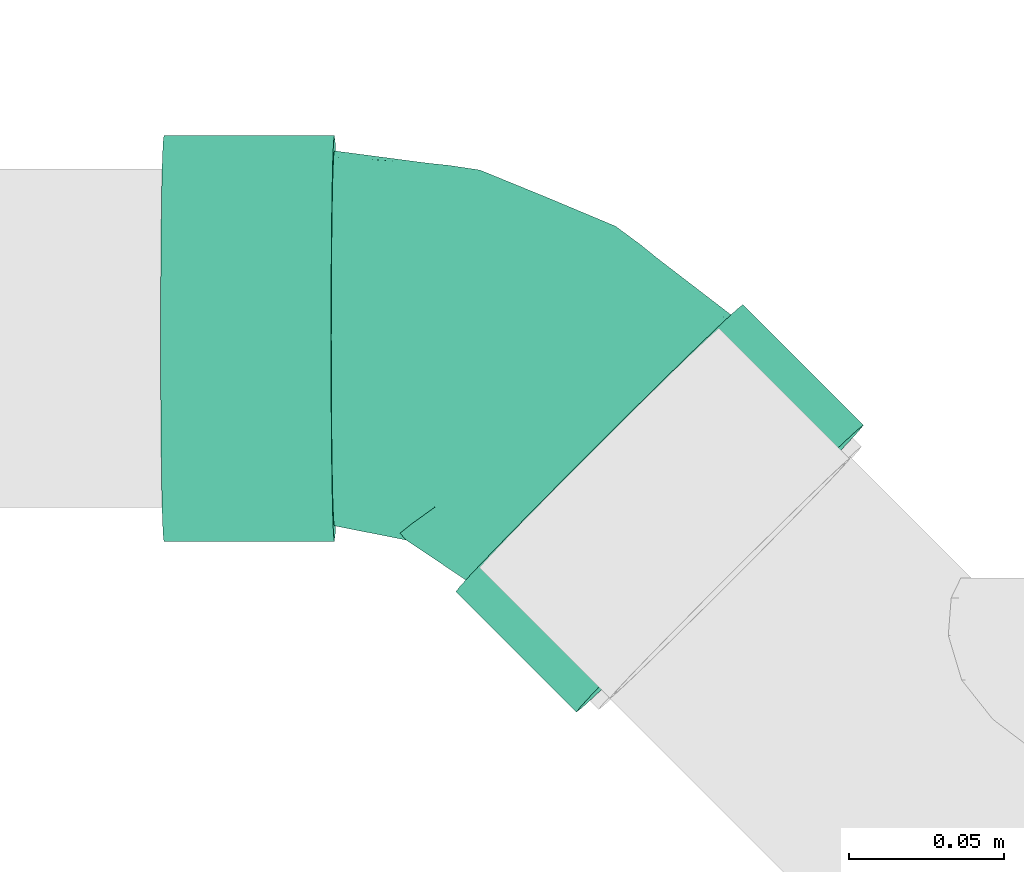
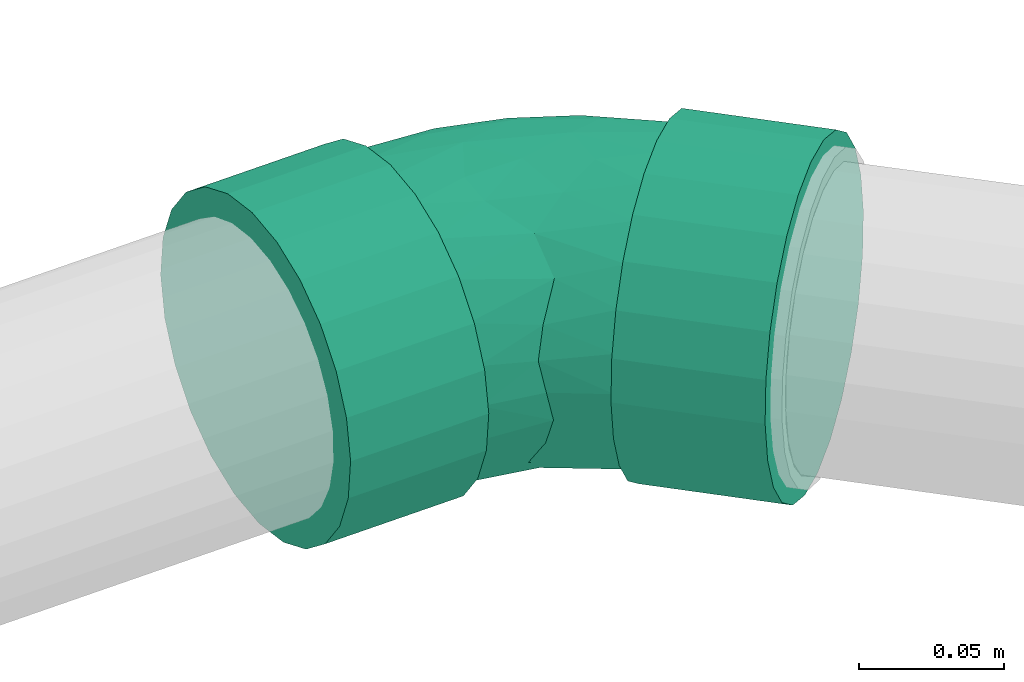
# One storey, part 62 of 83: 1 flow fitting.
"""IFC2X3 building model written with IfcOpenShell, lengths in millimetres."""

from ifc_helpers import new_model, entity, si_unit, converted_unit, derived_unit, direction, frame, origin_with_axes, place, context, subcontext, project, spatial, open_shell, surface_model, source, transform, mapped, type_object, element, save


model = new_model("IFC2X3")

# Units and contexts
model_context = context("Model", 3, precision=0.01, world=frame((0.0, 4.29681676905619e-09, 0.0)), true_north=direction((4.01073788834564e-13, 1.0)))
plan_context = context("Plan", 3, precision=0.01, world=frame((0.0, 4.29681676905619e-09, 0.0)), true_north=direction((4.01073788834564e-13, 1.0)))
body_context = subcontext(model_context, "Body", "Model", "MODEL_VIEW")
ifc_project = project(units=[converted_unit("PLANEANGLEUNIT", "DEGREE", entity("IfcPositiveLengthMeasure", 0.0174532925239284), si_unit("PLANEANGLEUNIT", "RADIAN"), dimensions=[0, 0, 0, 0, 0, 0, 0]), si_unit("AREAUNIT", "SQUARE_METRE"), si_unit("LENGTHUNIT", "METRE", prefix="MILLI"), si_unit("MASSUNIT", "GRAM", prefix="KILO"), si_unit("POWERUNIT", "WATT"), si_unit("PRESSUREUNIT", "PASCAL"), si_unit("FORCEUNIT", "NEWTON", prefix="KILO"), si_unit("ELECTRICVOLTAGEUNIT", "VOLT"), si_unit("ELECTRICCURRENTUNIT", "AMPERE"), si_unit("THERMODYNAMICTEMPERATUREUNIT", "DEGREE_CELSIUS"), si_unit("TIMEUNIT", "SECOND"), si_unit("VOLUMEUNIT", "CUBIC_METRE"), derived_unit("LINEARVELOCITYUNIT", [(si_unit("LENGTHUNIT", "METRE"), 1), (si_unit("TIMEUNIT", "SECOND"), -1)]), derived_unit("VOLUMETRICFLOWRATEUNIT", [(si_unit("VOLUMEUNIT", "CUBIC_METRE"), 1), (si_unit("TIMEUNIT", "SECOND"), -1)]), derived_unit("THERMALTRANSMITTANCEUNIT", [(si_unit("POWERUNIT", "WATT"), 1), (si_unit("THERMODYNAMICTEMPERATUREUNIT", "KELVIN"), -1), (si_unit("AREAUNIT", "SQUARE_METRE"), -1)]), derived_unit("SOUNDPRESSUREUNIT", [(si_unit("PRESSUREUNIT", "PASCAL"), 1)])], contexts=[model_context, plan_context])

# Site, building, storey
site_placement = place(None, frame((0.0, -4.29681676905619e-09, 0.0), z_axis=(0.0, 0.0, 1.0), x_axis=(1.0, 0.0, 0.0)))
site = spatial("IfcSite", under=ifc_project, at=site_placement, Name="ENGM", CompositionType="ELEMENT")
building_placement = place(site_placement, frame((0.0, 4.29681676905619e-09, 0.0), z_axis=(0.0, 0.0, 1.0), x_axis=(1.0, 0.0, 0.0)))
building = spatial("IfcBuilding", under=site, at=building_placement, Name="TI", CompositionType="ELEMENT")
storey_placement = place(building_placement, frame((0.0, 0.0, 204000.0), z_axis=(0.0, 0.0, 1.0), x_axis=(1.0, 0.0, 0.0)))
storey = spatial("IfcBuildingStorey", under=building, at=storey_placement, Name="Nivå D", CompositionType="ELEMENT", Elevation=204000.0)

# Flow fitting
pipe_fitting_type = type_object("IfcPipeFittingType", Name="magi_sewer_bend_001", PredefinedType="BEND")
shared_shape = source(origin_with_axes(), body_context, "Body", "SurfaceModel", [
    surface_model("IfcShellBasedSurfaceModel", [(-105.11169, -16.95265, -63.26814), (-105.11169, -32.75, -56.72466), (-105.11169, -46.3155, -46.3155), (-105.11169, -63.26814, -16.95265), (-105.11169, 56.72466, -32.75), (-105.11169, -56.72466, -32.75), (-105.11169, -65.5, 0.0), (-105.11169, 16.95265, -63.26814), (-105.11169, 0.0, -65.5), (-105.11169, 32.75, -56.72466), (-105.11169, 46.3155, -46.3155), (-105.11169, 63.26814, -16.95265), (-105.11169, -63.26814, 16.95265), (-105.11169, -56.72466, 32.75), (-105.11169, -46.3155, 46.3155), (-105.11169, 63.26814, 16.95265), (-105.11169, -16.95265, 63.26814), (-105.11169, 0.0, 65.5), (-105.11169, -32.75, 56.72466), (-105.11169, 46.3155, 46.3155), (-105.11169, 56.72466, 32.75), (-105.11169, 65.5, 0.0), (-105.11169, 16.95265, 63.26814), (-105.11169, 32.75, 56.72466), (-50.11169, -16.95265, 63.26814), (-50.11169, 16.95265, 63.26814), (-50.11169, 0.0, 65.5), (-50.11169, -46.3155, 46.3155), (-50.11169, -32.75, 56.72466), (-50.11169, -56.72466, 32.75), (-50.11169, -63.26814, 16.95265), (-50.11169, 46.3155, 46.3155), (-50.11169, 32.75, 56.72466), (-50.11169, 63.26814, 16.95265), (-50.11169, 56.72466, 32.75), (-50.11169, 63.26814, -16.95265), (-50.11169, 65.5, 0.0), (-50.11169, -63.26814, -16.95265), (-50.11169, 32.75, -56.72466), (-50.11169, -65.5, 0.0), (-50.11169, -16.95265, -63.26814), (-50.11169, -56.72466, -32.75), (-50.11169, -46.3155, -46.3155), (-50.11169, -32.75, -56.72466), (-50.11169, 0.0, -65.5), (-50.11169, 46.3155, -46.3155), (-50.11169, 56.72466, -32.75), (-50.11169, 16.95265, -63.26814), (62.34778, 86.30535, 63.26814), (41.58751, 107.07041, 46.3155), (51.17865, 97.47704, 56.72466), (28.02357, 120.63746, 0.0), (34.22796, 114.43164, -32.75), (29.60155, 119.05911, -16.95265), (51.17865, 97.47704, -56.72466), (74.33373, 74.31664, -65.5), (62.34778, 86.30535, -63.26814), (86.31969, 62.32793, 63.26814), (97.48882, 51.15623, 56.72466), (107.07996, 41.56287, 46.3155), (86.31969, 62.32793, -63.26814), (119.06592, 29.57416, 16.95265), (114.43952, 34.20163, 32.75), (120.6439, 27.99582, 0.0), (107.07996, 41.56287, -46.3155), (97.48882, 51.15623, -56.72466), (119.06592, 29.57416, -16.95265), (114.43952, 34.20163, -32.75), (68.18462, 2.67647, 46.3155), (80.17058, -9.31224, 16.95265), (75.54417, -4.68477, 32.75), (58.59347, 12.26983, 56.72466), (47.42434, 23.44153, 63.26814), (68.18462, 2.67647, -46.3155), (47.42434, 23.44153, -63.26814), (58.59347, 12.26983, -56.72466), (12.28331, 58.59065, -56.72466), (35.43839, 35.43024, -65.5), (23.45244, 47.41895, -63.26814), (-4.66739, 75.54525, -32.75), (-10.87178, 81.75106, 0.0), (-9.2938, 80.17271, -16.95265), (23.45244, 47.41895, 63.26814), (35.43839, 35.43024, 65.5), (12.28331, 58.59065, 56.72466), (74.33373, 74.31664, 65.5), (-9.2938, 80.17271, 16.95265), (81.74855, -10.89058, 0.0), (80.17058, -9.31224, -16.95265), (75.54417, -4.68477, -32.75), (-50.11169, 15.65855, -58.43851), (-50.11169, 0.0, -60.5), (-50.11169, 58.43851, -15.65855), (-50.11169, 30.25, -52.39454), (-50.11169, 52.39454, -30.25), (-50.11169, 42.77996, -42.77996), (-50.11169, -60.5, 0.0), (-50.11169, -30.25, -52.39454), (-50.11169, -42.77996, -42.77996), (-50.11169, -15.65855, -58.43851), (-50.11169, -58.43851, -15.65855), (-50.11169, -52.39454, -30.25), (-50.11169, -58.43851, 15.65855), (-50.11169, 58.43851, 15.65855), (-50.11169, 52.39454, 30.25), (-50.11169, 42.77996, 42.77996), (-50.11169, 30.25, 52.39454), (-50.11169, 15.65855, 58.43851), (-50.11169, -52.39454, 30.25), (-50.11169, -42.77996, 42.77996), (-50.11169, -30.25, 52.39454), (-50.11169, -15.65855, 58.43851), (-50.11169, 0.0, 60.5), (-50.11169, 60.5, 0.0), (46.50938, 24.3567, -58.43851), (65.68491, 5.17676, -42.77996), (56.82591, 14.0378, -52.39454), (72.48266, -1.62256, -30.25), (78.21343, -7.35464, 0.0), (76.75591, -5.89678, -15.65855), (-7.33665, 78.21512, 0.0), (-5.87912, 76.75726, 15.65855), (-1.60588, 72.48303, 30.25), (15.40779, -37.20376, 33.71575), (-13.37979, -34.19359, 46.68447), (-19.52869, -46.27099, 35.42531), (-20.20595, -56.56342, 0.0), (-3.14275, -54.31734, 0.0), (-12.90841, -55.73812, 10.33155), (72.48266, -1.62256, 30.25), (65.68491, 5.17676, 42.77996), (46.52523, -18.91501, 35.42531), (-23.96888, -22.18524, 55.29409), (6.21199, -14.9995, 54.53203), (24.36739, 46.50378, 58.43851), (1.79864, 36.36872, 56.46793), (10.93536, 28.63365, 59.61973), (-18.05072, -5.82526, 59.69855), (-5.7527, 13.8905, 60.28734), (-30.3089, 8.38332, 60.13281), (-17.18178, 41.48723, 49.39213), (-26.67255, 50.73823, 38.17936), (56.82591, 14.0378, 52.39454), (46.50938, 24.3567, 58.43851), (32.63604, 1.25747, 55.29409), (-23.23918, 25.17567, 56.55885), (23.34312, -39.60182, 23.84486), (-10.84361, -52.34235, 21.01062), (18.78215, -45.35149, 13.15148), (-24.91871, 60.16888, 24.85552), (76.75591, -5.89678, 15.65855), (48.53694, -30.29076, 10.33155), (54.28118, -25.71485, 0.0), (-24.23052, 64.82487, 12.7115), (35.43839, 35.43024, 60.5), (16.88386, 8.64276, 59.69855), (33.63776, -14.72145, 46.68447), (-26.96256, 65.10396, 0.0), (10.15363, -24.51702, 48.24728), (5.19187, 65.68372, 42.77996), (18.74175, -45.25396, 0.0), (40.62626, -36.19057, 0.0), (-18.05072, -5.82526, -59.69855), (-12.90841, -55.73812, -10.33155), (18.78215, -45.35149, -13.15148), (35.43839, 35.43024, -60.5), (16.88386, 8.64276, -59.69855), (-26.98558, 24.44784, -56.46793), (-27.97808, 12.5178, -59.61973), (-17.01071, 54.73965, -38.17936), (33.63777, -14.72145, -46.68447), (-24.91871, 60.16888, -24.85551), (44.67584, -29.34918, -21.01062), (-28.6973, 62.97497, -12.7115), (-10.84361, -52.34235, -21.01062), (5.19187, 65.68372, -42.77996), (-17.18178, 41.48723, -49.39213), (-19.52869, -46.27099, -35.42531), (-13.37979, -34.19359, -46.68447), (10.15363, -24.51702, -48.24728), (15.40779, -37.20376, -33.71575), (-23.96888, -22.18524, -55.29409), (32.63604, 1.25747, -55.29409), (-5.87912, 76.75726, -15.65855), (-1.60588, 72.48303, -30.25), (6.21199, -14.9995, -54.53203), (-1.36537, 34.23462, -56.55885), (48.53694, -30.29076, -10.33155), (15.50688, 27.35775, -60.13281), (24.36739, 46.50378, -58.43851), (11.49152, -44.51012, -23.84486), (46.52523, -18.91501, -35.42531), (-5.7527, 13.8905, -60.28734), (-4.66739, 75.54525, 32.75), (41.58751, 107.07039, -46.3155), (29.60156, 119.0591, 16.95265), (34.22796, 114.43164, 32.75), (14.05087, 56.82267, 52.39454), (44.67583, -29.34919, 21.01062), (14.05087, 56.82267, -52.39454), (2.69216, 68.184, -46.3155), (2.69216, 68.184, 46.3155)], [open_shell([[[0, 1, 2]], [[0, 2, 3]], [[0, 3, 4]], [[3, 2, 5]], [[4, 3, 6]], [[0, 7, 8]], [[0, 9, 7]], [[10, 9, 0]], [[0, 4, 10]], [[6, 11, 4]], [[6, 12, 11]], [[12, 13, 14]], [[11, 14, 15]], [[16, 17, 14]], [[16, 14, 18]], [[15, 14, 17]], [[15, 19, 20]], [[21, 11, 15]], [[19, 22, 23]], [[22, 19, 15]], [[17, 22, 15]], [[11, 12, 14]], [[24, 25, 26]], [[27, 24, 28]], [[27, 29, 30]], [[24, 27, 25]], [[30, 25, 27]], [[25, 31, 32]], [[31, 25, 33]], [[31, 33, 34]], [[25, 30, 33]], [[33, 35, 36]], [[33, 30, 35]], [[37, 38, 39]], [[40, 37, 41]], [[42, 43, 40]], [[42, 40, 41]], [[44, 37, 40]], [[39, 45, 46]], [[46, 35, 39]], [[38, 44, 47]], [[38, 45, 39]], [[38, 37, 44]], [[39, 35, 30]], [[35, 11, 36]], [[46, 4, 35]], [[47, 44, 7]], [[45, 10, 46]], [[35, 4, 11]], [[11, 21, 36]], [[9, 38, 7]], [[9, 10, 45]], [[38, 47, 7]], [[10, 4, 46]], [[45, 38, 9]], [[44, 8, 7]], [[0, 40, 43]], [[42, 1, 43]], [[5, 41, 37]], [[42, 41, 2]], [[3, 37, 39]], [[40, 0, 8]], [[43, 1, 0]], [[42, 2, 1]], [[41, 5, 2]], [[3, 5, 37]], [[39, 6, 3]], [[40, 8, 44]], [[30, 12, 39]], [[29, 13, 30]], [[28, 18, 27]], [[27, 14, 29]], [[30, 13, 12]], [[12, 6, 39]], [[17, 16, 24]], [[16, 18, 28]], [[14, 27, 18]], [[14, 13, 29]], [[24, 16, 28]], [[24, 26, 17]], [[22, 25, 32]], [[31, 23, 32]], [[20, 34, 33]], [[31, 34, 19]], [[15, 33, 36]], [[25, 22, 17]], [[32, 23, 22]], [[31, 19, 23]], [[34, 20, 19]], [[15, 20, 33]], [[36, 21, 15]], [[25, 17, 26]], [[48, 49, 50]], [[51, 52, 53]], [[54, 55, 56]], [[57, 58, 59]], [[60, 59, 61]], [[61, 59, 62]], [[60, 61, 63]], [[60, 64, 65]], [[55, 54, 60]], [[64, 66, 67]], [[66, 64, 60]], [[63, 66, 60]], [[68, 69, 70]], [[68, 71, 72]], [[73, 74, 75]], [[74, 76, 77]], [[78, 77, 76]], [[79, 80, 81]], [[82, 72, 83]], [[78, 56, 77]], [[76, 54, 78]], [[81, 80, 53]], [[78, 54, 56]], [[56, 55, 77]], [[52, 79, 53]], [[79, 81, 53]], [[80, 51, 53]], [[50, 84, 82]], [[48, 82, 83]], [[84, 50, 49]], [[48, 50, 82]], [[83, 85, 48]], [[86, 51, 80]], [[72, 57, 83]], [[71, 58, 72]], [[70, 62, 68]], [[68, 59, 71]], [[72, 58, 57]], [[57, 85, 83]], [[63, 61, 69]], [[61, 62, 70]], [[59, 68, 62]], [[59, 58, 71]], [[69, 61, 70]], [[69, 87, 63]], [[66, 88, 89]], [[73, 67, 89]], [[65, 75, 74]], [[73, 75, 64]], [[60, 74, 77]], [[88, 66, 63]], [[89, 67, 66]], [[73, 64, 67]], [[75, 65, 64]], [[60, 65, 74]], [[77, 55, 60]], [[88, 63, 87]], [[90, 91, 92]], [[93, 90, 92]], [[92, 94, 95]], [[93, 92, 95]], [[96, 92, 91]], [[97, 98, 99]], [[98, 91, 99]], [[100, 96, 101]], [[98, 101, 96]], [[98, 96, 91]], [[96, 102, 92]], [[103, 92, 102]], [[104, 103, 105]], [[106, 103, 102]], [[105, 103, 106]], [[107, 106, 102]], [[108, 109, 102]], [[110, 102, 109]], [[111, 112, 110]], [[102, 110, 112]], [[112, 107, 102]], [[113, 92, 103]], [[114, 115, 116]], [[117, 118, 119]], [[118, 117, 115]], [[120, 121, 122]], [[123, 124, 125]], [[126, 127, 128]], [[110, 109, 124]], [[129, 130, 131]], [[132, 124, 133]], [[125, 124, 109]], [[134, 135, 136]], [[111, 110, 132]], [[137, 138, 139]], [[112, 111, 137]], [[105, 140, 141]], [[142, 143, 144]], [[139, 107, 112]], [[106, 145, 140]], [[102, 126, 128]], [[146, 147, 148]], [[140, 105, 106]], [[109, 108, 125]], [[104, 141, 149]], [[103, 104, 149]], [[150, 151, 152]], [[153, 113, 103]], [[147, 128, 148]], [[106, 107, 145]], [[154, 136, 155]], [[130, 142, 156]], [[122, 121, 149]], [[155, 143, 154]], [[123, 125, 147]], [[130, 156, 131]], [[138, 136, 135]], [[156, 142, 144]], [[108, 147, 125]], [[123, 131, 156]], [[139, 145, 107]], [[123, 146, 131]], [[103, 149, 153]], [[108, 102, 147]], [[157, 153, 120]], [[124, 158, 133]], [[121, 153, 149]], [[133, 155, 137]], [[122, 149, 141]], [[133, 144, 155]], [[122, 141, 159]], [[138, 137, 155]], [[135, 140, 145]], [[132, 137, 111]], [[104, 105, 141]], [[158, 123, 156]], [[159, 141, 140]], [[138, 135, 145]], [[124, 132, 110]], [[137, 132, 133]], [[155, 144, 143]], [[156, 144, 133]], [[102, 96, 126]], [[148, 127, 160]], [[102, 128, 147]], [[127, 148, 128]], [[151, 148, 161]], [[152, 151, 161]], [[152, 118, 150]], [[155, 136, 138]], [[154, 134, 136]], [[137, 139, 112]], [[145, 139, 138]], [[123, 158, 124]], [[156, 133, 158]], [[120, 153, 121]], [[153, 157, 113]], [[147, 146, 123]], [[161, 148, 160]], [[99, 91, 162]], [[127, 163, 164]], [[165, 114, 166]], [[167, 168, 90]], [[94, 169, 95]], [[116, 115, 170]], [[171, 169, 94]], [[117, 119, 172]], [[92, 173, 171]], [[100, 163, 126]], [[93, 167, 90]], [[163, 100, 174]], [[175, 176, 169]], [[174, 101, 177]], [[177, 98, 178]], [[98, 97, 178]], [[179, 180, 178]], [[100, 101, 174]], [[98, 177, 101]], [[181, 97, 99]], [[182, 166, 114]], [[183, 184, 171]], [[185, 181, 162]], [[113, 157, 173]], [[180, 177, 178]], [[120, 183, 173]], [[185, 162, 166]], [[171, 94, 92]], [[184, 169, 171]], [[181, 178, 97]], [[168, 162, 91]], [[176, 186, 167]], [[95, 176, 93]], [[119, 152, 187]], [[188, 189, 165]], [[182, 114, 116]], [[190, 172, 164]], [[115, 191, 170]], [[185, 182, 170]], [[115, 117, 191]], [[192, 188, 166]], [[191, 180, 170]], [[192, 166, 162]], [[187, 152, 161]], [[188, 186, 189]], [[192, 168, 167]], [[163, 174, 164]], [[180, 190, 177]], [[170, 179, 185]], [[117, 172, 191]], [[183, 171, 173]], [[180, 191, 172]], [[184, 175, 169]], [[95, 169, 176]], [[176, 167, 93]], [[192, 167, 186]], [[162, 181, 99]], [[178, 181, 185]], [[170, 182, 116]], [[166, 182, 185]], [[126, 163, 127]], [[126, 96, 100]], [[190, 164, 174]], [[187, 164, 172]], [[164, 161, 160]], [[119, 118, 152]], [[164, 187, 161]], [[119, 187, 172]], [[162, 168, 192]], [[91, 90, 168]], [[166, 188, 165]], [[186, 188, 192]], [[180, 179, 170]], [[178, 185, 179]], [[113, 173, 92]], [[173, 157, 120]], [[177, 190, 174]], [[172, 190, 180]], [[127, 164, 160]], [[57, 48, 85]], [[48, 57, 59]], [[72, 87, 69]], [[68, 72, 69]], [[87, 72, 88]], [[89, 74, 73]], [[74, 89, 88]], [[88, 72, 74]], [[74, 72, 82]], [[74, 82, 84]], [[84, 193, 80]], [[193, 86, 80]], [[79, 84, 80]], [[189, 114, 165]], [[150, 175, 184]], [[189, 175, 114]], [[175, 150, 118]], [[115, 114, 118]], [[114, 175, 118]], [[150, 184, 183]], [[120, 122, 159]], [[129, 142, 130]], [[142, 129, 150]], [[142, 154, 143]], [[154, 142, 150]], [[194, 54, 76]], [[195, 86, 193]], [[86, 195, 51]], [[193, 196, 195]], [[197, 159, 140]], [[198, 146, 148]], [[134, 197, 135]], [[140, 135, 197]], [[199, 189, 186]], [[175, 199, 176]], [[186, 176, 199]], [[195, 196, 49]], [[195, 49, 48]], [[195, 48, 51]], [[48, 59, 194]], [[52, 51, 194]], [[48, 194, 51]], [[194, 60, 54]], [[194, 59, 60]], [[175, 189, 199]], [[197, 150, 183]], [[197, 120, 159]], [[154, 197, 134]], [[150, 197, 154]], [[197, 183, 120]], [[151, 150, 198]], [[198, 150, 129]], [[198, 129, 131]], [[148, 151, 198]], [[131, 146, 198]], [[52, 194, 200]], [[200, 79, 52]], [[201, 49, 196]], [[84, 200, 74]], [[193, 84, 201]], [[200, 76, 74]], [[79, 200, 84]], [[200, 194, 76]], [[201, 196, 193]], [[201, 84, 49]]])]),
])
flow_fitting_placement = place(storey_placement, frame((608733.97739, 692997.82372, 6169.51749999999), z_axis=(-0.0166559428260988, 0.0069099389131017, 0.999837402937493), x_axis=(-0.707008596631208, 0.707008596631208, -0.0166639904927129)))
element("IfcFlowFitting", 1, at=flow_fitting_placement, inside=storey, type_object=pipe_fitting_type, Name="magi_sewer_bend_001", context=body_context, shape_type="MappedRepresentation", body=[
    mapped(shared_shape, transform((0.0, 0.0, 0.0), scale=1.0)),
])

save(model, "model.ifc")
